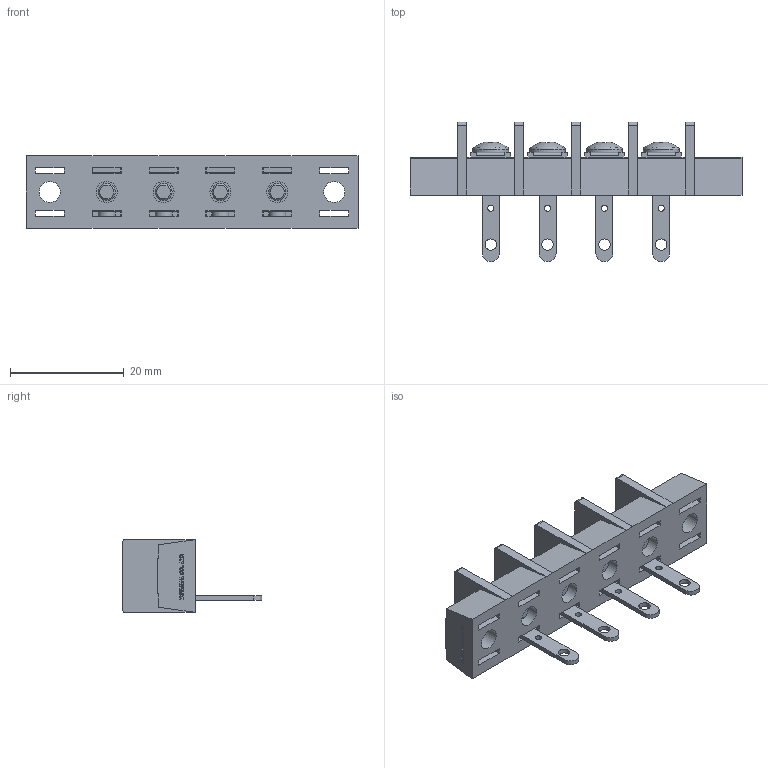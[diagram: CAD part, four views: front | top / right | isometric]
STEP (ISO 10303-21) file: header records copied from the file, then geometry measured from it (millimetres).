
FILE_DESCRIPTION(/* description */ ('Alibre Inc.'),/* implementation_level */ '2;1');
FILE_NAME(/* name */ 'export0',/* time_stamp */ '2015-10-22T20:35:05+09:00',/* author */ (''),/* organization */ (''),/* preprocessor_version */ 'ST-DEVELOPER v14',/* originating_system */ 'Alibre',/* authorisation */ '');
FILE_SCHEMA (('CONFIG_CONTROL_DESIGN'));
Length unit declared in the file: centimetre
Products named in the file (1): ID_1
Bounding box: 58.4 x 24.5 x 12.8 mm (x, y, z)
Volume: 5015.6 mm3; surface area: 5991.6 mm2
Topology: 1 solids, 69 shells, 1544 faces, 3986 edges, 2638 vertices
Faces by surface type: plane 1146, bspline 312, cylinder 54, cone 20, torus 8, sphere 4
Full cylindrical faces by diameter (mm): 1.1 x4, 2 x4, 3 x8, 3.7 x6, 4.6 x6, 6.3 x4
Entity records: 45031 total; most frequent: CARTESIAN_POINT 10931, ORIENTED_EDGE 7872, DIRECTION 4686, EDGE_CURVE 3936, VECTOR 3038, LINE 3038, VERTEX_POINT 2632, EDGE_LOOP 1730
